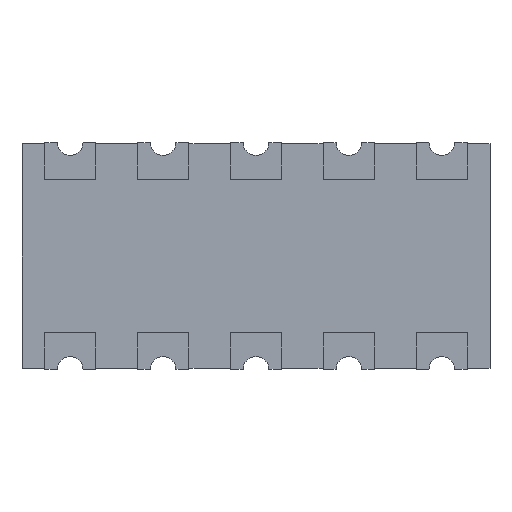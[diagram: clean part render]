
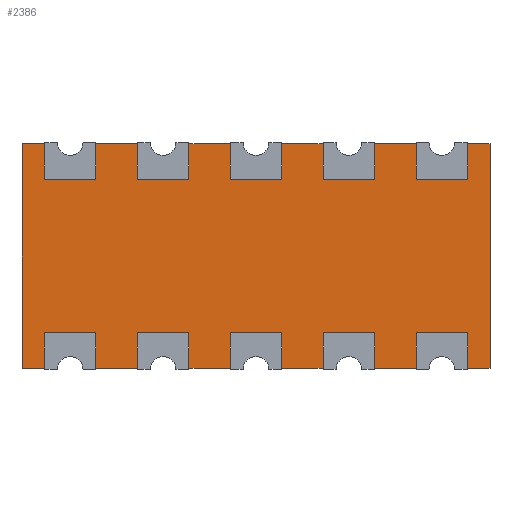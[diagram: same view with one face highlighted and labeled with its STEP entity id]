
A CAD part, front view. The second image highlights one B-rep face of the part: STEP entity #2386.
In plain terms, the highlighted planar face has unit normal (0, -1, 0).
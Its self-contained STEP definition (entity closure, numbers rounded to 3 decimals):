
#25=CIRCLE('',#2508,0.175);
#27=CIRCLE('',#2512,0.175);
#29=CIRCLE('',#2516,0.175);
#31=CIRCLE('',#2520,0.175);
#33=CIRCLE('',#2524,0.175);
#35=CIRCLE('',#2530,0.175);
#37=CIRCLE('',#2534,0.175);
#39=CIRCLE('',#2538,0.175);
#41=CIRCLE('',#2542,0.175);
#43=CIRCLE('',#2546,0.175);
#110=FACE_OUTER_BOUND('',#242,.T.);
#242=EDGE_LOOP('',(#1577,#1578,#1579,#1580,#1581,#1582,#1583,#1584,#1585,
#1586,#1587,#1588,#1589,#1590,#1591,#1592,#1593,#1594,#1595,#1596,#1597,
#1598,#1599,#1600));
#349=LINE('',#3312,#633);
#354=LINE('',#3326,#638);
#358=LINE('',#3338,#642);
#362=LINE('',#3350,#646);
#366=LINE('',#3362,#650);
#370=LINE('',#3374,#654);
#373=LINE('',#3380,#657);
#376=LINE('',#3386,#660);
#380=LINE('',#3398,#664);
#384=LINE('',#3410,#668);
#388=LINE('',#3422,#672);
#392=LINE('',#3434,#676);
#396=LINE('',#3446,#680);
#399=LINE('',#3451,#683);
#633=VECTOR('',#2682,0.485);
#638=VECTOR('',#2695,0.92);
#642=VECTOR('',#2707,0.92);
#646=VECTOR('',#2719,0.92);
#650=VECTOR('',#2731,0.92);
#654=VECTOR('',#2743,0.485);
#657=VECTOR('',#2748,3.072);
#660=VECTOR('',#2753,0.485);
#664=VECTOR('',#2765,0.92);
#668=VECTOR('',#2777,0.92);
#672=VECTOR('',#2789,0.92);
#676=VECTOR('',#2801,0.92);
#680=VECTOR('',#2813,0.485);
#683=VECTOR('',#2818,3.072);
#917=VERTEX_POINT('',#3310);
#918=VERTEX_POINT('',#3311);
#921=VERTEX_POINT('',#3319);
#923=VERTEX_POINT('',#3325);
#925=VERTEX_POINT('',#3331);
#927=VERTEX_POINT('',#3337);
#929=VERTEX_POINT('',#3343);
#931=VERTEX_POINT('',#3349);
#933=VERTEX_POINT('',#3355);
#935=VERTEX_POINT('',#3361);
#937=VERTEX_POINT('',#3367);
#939=VERTEX_POINT('',#3373);
#941=VERTEX_POINT('',#3379);
#943=VERTEX_POINT('',#3385);
#945=VERTEX_POINT('',#3391);
#947=VERTEX_POINT('',#3397);
#949=VERTEX_POINT('',#3403);
#951=VERTEX_POINT('',#3409);
#953=VERTEX_POINT('',#3415);
#955=VERTEX_POINT('',#3421);
#957=VERTEX_POINT('',#3427);
#959=VERTEX_POINT('',#3433);
#961=VERTEX_POINT('',#3439);
#963=VERTEX_POINT('',#3445);
#1133=EDGE_CURVE('',#917,#918,#349,.T.);
#1137=EDGE_CURVE('',#921,#917,#25,.T.);
#1140=EDGE_CURVE('',#923,#921,#354,.T.);
#1143=EDGE_CURVE('',#925,#923,#27,.T.);
#1146=EDGE_CURVE('',#927,#925,#358,.T.);
#1149=EDGE_CURVE('',#929,#927,#29,.T.);
#1152=EDGE_CURVE('',#931,#929,#362,.T.);
#1155=EDGE_CURVE('',#933,#931,#31,.T.);
#1158=EDGE_CURVE('',#935,#933,#366,.T.);
#1161=EDGE_CURVE('',#937,#935,#33,.T.);
#1164=EDGE_CURVE('',#939,#937,#370,.T.);
#1167=EDGE_CURVE('',#941,#939,#373,.T.);
#1170=EDGE_CURVE('',#943,#941,#376,.T.);
#1173=EDGE_CURVE('',#945,#943,#35,.T.);
#1176=EDGE_CURVE('',#947,#945,#380,.T.);
#1179=EDGE_CURVE('',#949,#947,#37,.T.);
#1182=EDGE_CURVE('',#951,#949,#384,.T.);
#1185=EDGE_CURVE('',#953,#951,#39,.T.);
#1188=EDGE_CURVE('',#955,#953,#388,.T.);
#1191=EDGE_CURVE('',#957,#955,#41,.T.);
#1194=EDGE_CURVE('',#959,#957,#392,.T.);
#1197=EDGE_CURVE('',#961,#959,#43,.T.);
#1200=EDGE_CURVE('',#963,#961,#396,.T.);
#1203=EDGE_CURVE('',#918,#963,#399,.T.);
#1577=ORIENTED_EDGE('',*,*,#1203,.F.);
#1578=ORIENTED_EDGE('',*,*,#1133,.F.);
#1579=ORIENTED_EDGE('',*,*,#1137,.F.);
#1580=ORIENTED_EDGE('',*,*,#1140,.F.);
#1581=ORIENTED_EDGE('',*,*,#1143,.F.);
#1582=ORIENTED_EDGE('',*,*,#1146,.F.);
#1583=ORIENTED_EDGE('',*,*,#1149,.F.);
#1584=ORIENTED_EDGE('',*,*,#1152,.F.);
#1585=ORIENTED_EDGE('',*,*,#1155,.F.);
#1586=ORIENTED_EDGE('',*,*,#1158,.F.);
#1587=ORIENTED_EDGE('',*,*,#1161,.F.);
#1588=ORIENTED_EDGE('',*,*,#1164,.F.);
#1589=ORIENTED_EDGE('',*,*,#1167,.F.);
#1590=ORIENTED_EDGE('',*,*,#1170,.F.);
#1591=ORIENTED_EDGE('',*,*,#1173,.F.);
#1592=ORIENTED_EDGE('',*,*,#1176,.F.);
#1593=ORIENTED_EDGE('',*,*,#1179,.F.);
#1594=ORIENTED_EDGE('',*,*,#1182,.F.);
#1595=ORIENTED_EDGE('',*,*,#1185,.F.);
#1596=ORIENTED_EDGE('',*,*,#1188,.F.);
#1597=ORIENTED_EDGE('',*,*,#1191,.F.);
#1598=ORIENTED_EDGE('',*,*,#1194,.F.);
#1599=ORIENTED_EDGE('',*,*,#1197,.F.);
#1600=ORIENTED_EDGE('',*,*,#1200,.F.);
#2120=PLANE('',#2551);
#2386=ADVANCED_FACE('',(#110),#2120,.F.);
#2508=AXIS2_PLACEMENT_3D('',#3320,#2688,#2689);
#2512=AXIS2_PLACEMENT_3D('',#3332,#2700,#2701);
#2516=AXIS2_PLACEMENT_3D('',#3344,#2712,#2713);
#2520=AXIS2_PLACEMENT_3D('',#3356,#2724,#2725);
#2524=AXIS2_PLACEMENT_3D('',#3368,#2736,#2737);
#2530=AXIS2_PLACEMENT_3D('',#3392,#2758,#2759);
#2534=AXIS2_PLACEMENT_3D('',#3404,#2770,#2771);
#2538=AXIS2_PLACEMENT_3D('',#3416,#2782,#2783);
#2542=AXIS2_PLACEMENT_3D('',#3428,#2794,#2795);
#2546=AXIS2_PLACEMENT_3D('',#3440,#2806,#2807);
#2551=AXIS2_PLACEMENT_3D('',#3454,#2822,#2823);
#2682=DIRECTION('',(-1.,0.,0.));
#2688=DIRECTION('center_axis',(0.,-1.,0.));
#2689=DIRECTION('ref_axis',(1.,0.,0.));
#2695=DIRECTION('',(-1.,0.,0.));
#2700=DIRECTION('center_axis',(0.,-1.,0.));
#2701=DIRECTION('ref_axis',(1.,0.,0.));
#2707=DIRECTION('',(-1.,0.,0.));
#2712=DIRECTION('center_axis',(0.,-1.,0.));
#2713=DIRECTION('ref_axis',(1.,0.,0.));
#2719=DIRECTION('',(-1.,0.,0.));
#2724=DIRECTION('center_axis',(0.,-1.,0.));
#2725=DIRECTION('ref_axis',(1.,0.,0.));
#2731=DIRECTION('',(-1.,0.,0.));
#2736=DIRECTION('center_axis',(0.,-1.,0.));
#2737=DIRECTION('ref_axis',(1.,0.,0.));
#2743=DIRECTION('',(-1.,0.,0.));
#2748=DIRECTION('',(0.,0.,-1.));
#2753=DIRECTION('',(1.,0.,0.));
#2758=DIRECTION('center_axis',(0.,-1.,0.));
#2759=DIRECTION('ref_axis',(-1.,0.,0.));
#2765=DIRECTION('',(1.,0.,0.));
#2770=DIRECTION('center_axis',(0.,-1.,0.));
#2771=DIRECTION('ref_axis',(-1.,0.,0.));
#2777=DIRECTION('',(1.,0.,0.));
#2782=DIRECTION('center_axis',(0.,-1.,0.));
#2783=DIRECTION('ref_axis',(-1.,0.,0.));
#2789=DIRECTION('',(1.,0.,0.));
#2794=DIRECTION('center_axis',(0.,-1.,0.));
#2795=DIRECTION('ref_axis',(-1.,0.,0.));
#2801=DIRECTION('',(1.,0.,0.));
#2806=DIRECTION('center_axis',(0.,-1.,0.));
#2807=DIRECTION('ref_axis',(-1.,0.,0.));
#2813=DIRECTION('',(1.,0.,0.));
#2818=DIRECTION('',(0.,0.,1.));
#2822=DIRECTION('center_axis',(0.,1.,0.));
#2823=DIRECTION('ref_axis',(0.,0.,1.));
#3310=CARTESIAN_POINT('',(0.485,0.,0.));
#3311=CARTESIAN_POINT('',(0.,0.,0.));
#3312=CARTESIAN_POINT('',(0.485,0.,0.));
#3319=CARTESIAN_POINT('',(0.835,0.,0.));
#3320=CARTESIAN_POINT('Origin',(0.66,0.,0.));
#3325=CARTESIAN_POINT('',(1.755,0.,0.));
#3326=CARTESIAN_POINT('',(1.755,0.,0.));
#3331=CARTESIAN_POINT('',(2.105,0.,0.));
#3332=CARTESIAN_POINT('Origin',(1.93,0.,0.));
#3337=CARTESIAN_POINT('',(3.025,0.,0.));
#3338=CARTESIAN_POINT('',(3.025,0.,0.));
#3343=CARTESIAN_POINT('',(3.375,0.,0.));
#3344=CARTESIAN_POINT('Origin',(3.2,0.,0.));
#3349=CARTESIAN_POINT('',(4.295,0.,0.));
#3350=CARTESIAN_POINT('',(4.295,0.,0.));
#3355=CARTESIAN_POINT('',(4.645,0.,0.));
#3356=CARTESIAN_POINT('Origin',(4.47,0.,0.));
#3361=CARTESIAN_POINT('',(5.565,0.,0.));
#3362=CARTESIAN_POINT('',(5.565,0.,0.));
#3367=CARTESIAN_POINT('',(5.915,0.,0.));
#3368=CARTESIAN_POINT('Origin',(5.74,0.,0.));
#3373=CARTESIAN_POINT('',(6.4,0.,0.));
#3374=CARTESIAN_POINT('',(6.4,0.,0.));
#3379=CARTESIAN_POINT('',(6.4,0.,3.072));
#3380=CARTESIAN_POINT('',(6.4,0.,3.072));
#3385=CARTESIAN_POINT('',(5.915,0.,3.072));
#3386=CARTESIAN_POINT('',(5.915,0.,3.072));
#3391=CARTESIAN_POINT('',(5.565,0.,3.072));
#3392=CARTESIAN_POINT('Origin',(5.74,0.,3.072));
#3397=CARTESIAN_POINT('',(4.645,0.,3.072));
#3398=CARTESIAN_POINT('',(4.645,0.,3.072));
#3403=CARTESIAN_POINT('',(4.295,0.,3.072));
#3404=CARTESIAN_POINT('Origin',(4.47,0.,3.072));
#3409=CARTESIAN_POINT('',(3.375,0.,3.072));
#3410=CARTESIAN_POINT('',(3.375,0.,3.072));
#3415=CARTESIAN_POINT('',(3.025,0.,3.072));
#3416=CARTESIAN_POINT('Origin',(3.2,0.,3.072));
#3421=CARTESIAN_POINT('',(2.105,0.,3.072));
#3422=CARTESIAN_POINT('',(2.105,0.,3.072));
#3427=CARTESIAN_POINT('',(1.755,0.,3.072));
#3428=CARTESIAN_POINT('Origin',(1.93,0.,3.072));
#3433=CARTESIAN_POINT('',(0.835,0.,3.072));
#3434=CARTESIAN_POINT('',(0.835,0.,3.072));
#3439=CARTESIAN_POINT('',(0.485,0.,3.072));
#3440=CARTESIAN_POINT('Origin',(0.66,0.,3.072));
#3445=CARTESIAN_POINT('',(0.,0.,3.072));
#3446=CARTESIAN_POINT('',(0.,0.,3.072));
#3451=CARTESIAN_POINT('',(0.,0.,0.));
#3454=CARTESIAN_POINT('Origin',(3.2,0.,1.536));
